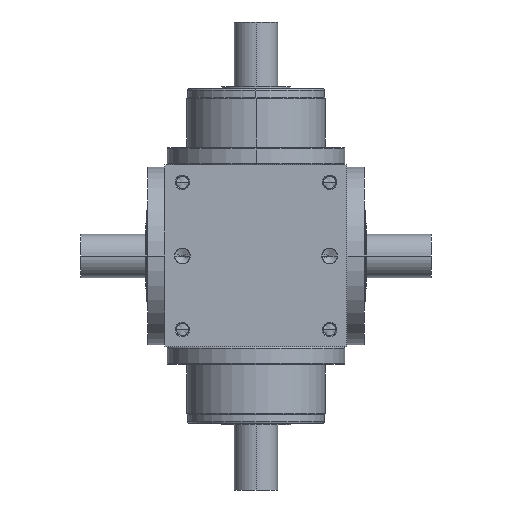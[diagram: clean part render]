
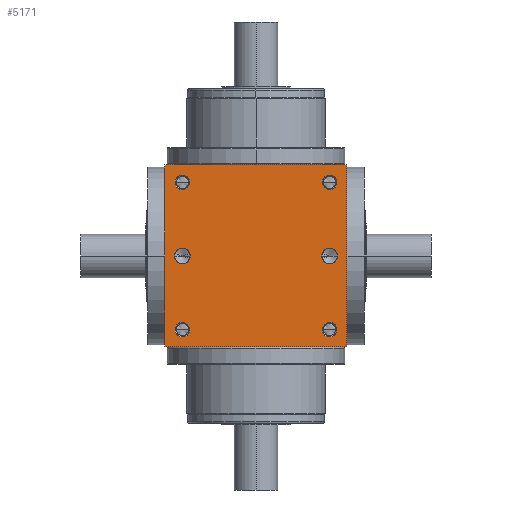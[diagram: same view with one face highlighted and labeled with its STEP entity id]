
A CAD part, front view. The second image highlights one B-rep face of the part: STEP entity #5171.
In plain terms, the highlighted planar face has unit normal (0, -1, 0).
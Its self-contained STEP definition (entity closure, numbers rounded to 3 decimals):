
#5=DIRECTION('',(1.,0.,0.));
#6=VECTOR('',#5,210.);
#7=CARTESIAN_POINT('',(-105.,-105.,-105.));
#8=LINE('',#7,#6);
#165=DIRECTION('',(0.,0.,1.));
#166=VECTOR('',#165,210.);
#167=CARTESIAN_POINT('',(105.,-105.,-105.));
#168=LINE('',#167,#166);
#219=DIRECTION('',(0.,0.,1.));
#220=VECTOR('',#219,210.);
#221=CARTESIAN_POINT('',(-105.,-105.,-105.));
#222=LINE('',#221,#220);
#223=CARTESIAN_POINT('',(85.,-104.999,85.));
#224=DIRECTION('',(0.,1.,0.));
#225=DIRECTION('',(-1.,0.,0.));
#226=AXIS2_PLACEMENT_3D('',#223,#224,#225);
#228=CARTESIAN_POINT('',(85.,-104.999,85.));
#229=DIRECTION('',(0.,1.,0.));
#230=DIRECTION('',(1.,0.,0.));
#231=AXIS2_PLACEMENT_3D('',#228,#229,#230);
#233=CARTESIAN_POINT('',(-85.,-104.999,85.));
#234=DIRECTION('',(0.,1.,0.));
#235=DIRECTION('',(-1.,0.,0.));
#236=AXIS2_PLACEMENT_3D('',#233,#234,#235);
#238=CARTESIAN_POINT('',(-85.,-104.999,85.));
#239=DIRECTION('',(0.,1.,0.));
#240=DIRECTION('',(1.,0.,0.));
#241=AXIS2_PLACEMENT_3D('',#238,#239,#240);
#243=CARTESIAN_POINT('',(85.,-104.999,-85.));
#244=DIRECTION('',(0.,1.,0.));
#245=DIRECTION('',(-1.,0.,0.));
#246=AXIS2_PLACEMENT_3D('',#243,#244,#245);
#248=CARTESIAN_POINT('',(85.,-104.999,-85.));
#249=DIRECTION('',(0.,1.,0.));
#250=DIRECTION('',(1.,0.,0.));
#251=AXIS2_PLACEMENT_3D('',#248,#249,#250);
#253=CARTESIAN_POINT('',(-85.,-104.999,-85.));
#254=DIRECTION('',(0.,1.,0.));
#255=DIRECTION('',(-1.,0.,0.));
#256=AXIS2_PLACEMENT_3D('',#253,#254,#255);
#258=CARTESIAN_POINT('',(-85.,-104.999,-85.));
#259=DIRECTION('',(0.,1.,0.));
#260=DIRECTION('',(1.,0.,0.));
#261=AXIS2_PLACEMENT_3D('',#258,#259,#260);
#263=CARTESIAN_POINT('',(-85.,-105.,0.));
#264=DIRECTION('',(0.,1.,0.));
#265=DIRECTION('',(1.,0.,0.));
#266=AXIS2_PLACEMENT_3D('',#263,#264,#265);
#268=CARTESIAN_POINT('',(-85.,-105.,0.));
#269=DIRECTION('',(0.,1.,0.));
#270=DIRECTION('',(-1.,0.,0.));
#271=AXIS2_PLACEMENT_3D('',#268,#269,#270);
#273=CARTESIAN_POINT('',(85.,-105.,0.));
#274=DIRECTION('',(0.,1.,0.));
#275=DIRECTION('',(1.,0.,0.));
#276=AXIS2_PLACEMENT_3D('',#273,#274,#275);
#278=CARTESIAN_POINT('',(85.,-105.,0.));
#279=DIRECTION('',(0.,1.,0.));
#280=DIRECTION('',(-1.,0.,0.));
#281=AXIS2_PLACEMENT_3D('',#278,#279,#280);
#295=DIRECTION('',(1.,0.,0.));
#296=VECTOR('',#295,210.);
#297=CARTESIAN_POINT('',(-105.,-105.,105.));
#298=LINE('',#297,#296);
#4145=CARTESIAN_POINT('',(-105.,-105.,-105.));
#4147=VERTEX_POINT('',#4145);
#4148=CARTESIAN_POINT('',(105.,-105.,-105.));
#4149=VERTEX_POINT('',#4148);
#4153=CARTESIAN_POINT('',(-105.,-105.,105.));
#4155=VERTEX_POINT('',#4153);
#4156=CARTESIAN_POINT('',(105.,-105.,105.));
#4157=VERTEX_POINT('',#4156);
#4336=CARTESIAN_POINT('',(76.6,-104.999,85.));
#4337=CARTESIAN_POINT('',(93.4,-104.999,85.));
#4338=VERTEX_POINT('',#4336);
#4339=VERTEX_POINT('',#4337);
#4344=CARTESIAN_POINT('',(-93.4,-104.999,85.));
#4345=CARTESIAN_POINT('',(-76.6,-104.999,85.));
#4346=VERTEX_POINT('',#4344);
#4347=VERTEX_POINT('',#4345);
#4352=CARTESIAN_POINT('',(76.6,-104.999,-85.));
#4353=CARTESIAN_POINT('',(93.4,-104.999,-85.));
#4354=VERTEX_POINT('',#4352);
#4355=VERTEX_POINT('',#4353);
#4360=CARTESIAN_POINT('',(-93.4,-104.999,-85.));
#4361=CARTESIAN_POINT('',(-76.6,-104.999,-85.));
#4362=VERTEX_POINT('',#4360);
#4363=VERTEX_POINT('',#4361);
#4720=CARTESIAN_POINT('',(-75.95,-105.,
0.));
#4721=CARTESIAN_POINT('',(-94.05,-105.,
0.));
#4722=VERTEX_POINT('',#4720);
#4723=VERTEX_POINT('',#4721);
#4728=CARTESIAN_POINT('',(94.05,-105.,0.));
#4729=CARTESIAN_POINT('',(75.95,-105.,0.));
#4730=VERTEX_POINT('',#4728);
#4731=VERTEX_POINT('',#4729);
#5123=CARTESIAN_POINT('',(-105.,-105.,-105.));
#5124=DIRECTION('',(0.,-1.,0.));
#5125=DIRECTION('',(1.,0.,0.));
#5126=AXIS2_PLACEMENT_3D('',#5123,#5124,#5125);
#5127=PLANE('',#5126);
#5128=ORIENTED_EDGE('',*,*,#4957,.F.);
#5129=ORIENTED_EDGE('',*,*,#5006,.T.);
#5131=ORIENTED_EDGE('',*,*,#5130,.T.);
#5132=ORIENTED_EDGE('',*,*,#5085,.F.);
#5133=EDGE_LOOP('',(#5128,#5129,#5131,#5132));
#5134=FACE_OUTER_BOUND('',#5133,.F.);
#5136=ORIENTED_EDGE('',*,*,#5135,.F.);
#5138=ORIENTED_EDGE('',*,*,#5137,.F.);
#5139=EDGE_LOOP('',(#5136,#5138));
#5140=FACE_BOUND('',#5139,.F.);
#5142=ORIENTED_EDGE('',*,*,#5141,.F.);
#5144=ORIENTED_EDGE('',*,*,#5143,.F.);
#5145=EDGE_LOOP('',(#5142,#5144));
#5146=FACE_BOUND('',#5145,.F.);
#5148=ORIENTED_EDGE('',*,*,#5147,.F.);
#5150=ORIENTED_EDGE('',*,*,#5149,.F.);
#5151=EDGE_LOOP('',(#5148,#5150));
#5152=FACE_BOUND('',#5151,.F.);
#5154=ORIENTED_EDGE('',*,*,#5153,.F.);
#5156=ORIENTED_EDGE('',*,*,#5155,.F.);
#5157=EDGE_LOOP('',(#5154,#5156));
#5158=FACE_BOUND('',#5157,.F.);
#5160=ORIENTED_EDGE('',*,*,#5159,.F.);
#5162=ORIENTED_EDGE('',*,*,#5161,.F.);
#5163=EDGE_LOOP('',(#5160,#5162));
#5164=FACE_BOUND('',#5163,.F.);
#5166=ORIENTED_EDGE('',*,*,#5165,.F.);
#5168=ORIENTED_EDGE('',*,*,#5167,.F.);
#5169=EDGE_LOOP('',(#5166,#5168));
#5170=FACE_BOUND('',#5169,.F.);
#5171=ADVANCED_FACE('',(#5134,#5140,#5146,#5152,#5158,#5164,#5170),#5127,.T.);
#227=CIRCLE('',#226,8.4);
#232=CIRCLE('',#231,8.4);
#237=CIRCLE('',#236,8.4);
#242=CIRCLE('',#241,8.4);
#247=CIRCLE('',#246,8.4);
#252=CIRCLE('',#251,8.4);
#257=CIRCLE('',#256,8.4);
#262=CIRCLE('',#261,8.4);
#267=CIRCLE('',#266,9.05);
#272=CIRCLE('',#271,9.05);
#277=CIRCLE('',#276,9.05);
#282=CIRCLE('',#281,9.05);
#4957=EDGE_CURVE('',#4147,#4149,#8,.T.);
#5006=EDGE_CURVE('',#4147,#4155,#222,.T.);
#5085=EDGE_CURVE('',#4149,#4157,#168,.T.);
#5130=EDGE_CURVE('',#4155,#4157,#298,.T.);
#5135=EDGE_CURVE('',#4338,#4339,#227,.T.);
#5137=EDGE_CURVE('',#4339,#4338,#232,.T.);
#5141=EDGE_CURVE('',#4346,#4347,#237,.T.);
#5143=EDGE_CURVE('',#4347,#4346,#242,.T.);
#5147=EDGE_CURVE('',#4354,#4355,#247,.T.);
#5149=EDGE_CURVE('',#4355,#4354,#252,.T.);
#5153=EDGE_CURVE('',#4362,#4363,#257,.T.);
#5155=EDGE_CURVE('',#4363,#4362,#262,.T.);
#5159=EDGE_CURVE('',#4722,#4723,#267,.T.);
#5161=EDGE_CURVE('',#4723,#4722,#272,.T.);
#5165=EDGE_CURVE('',#4730,#4731,#277,.T.);
#5167=EDGE_CURVE('',#4731,#4730,#282,.T.);
